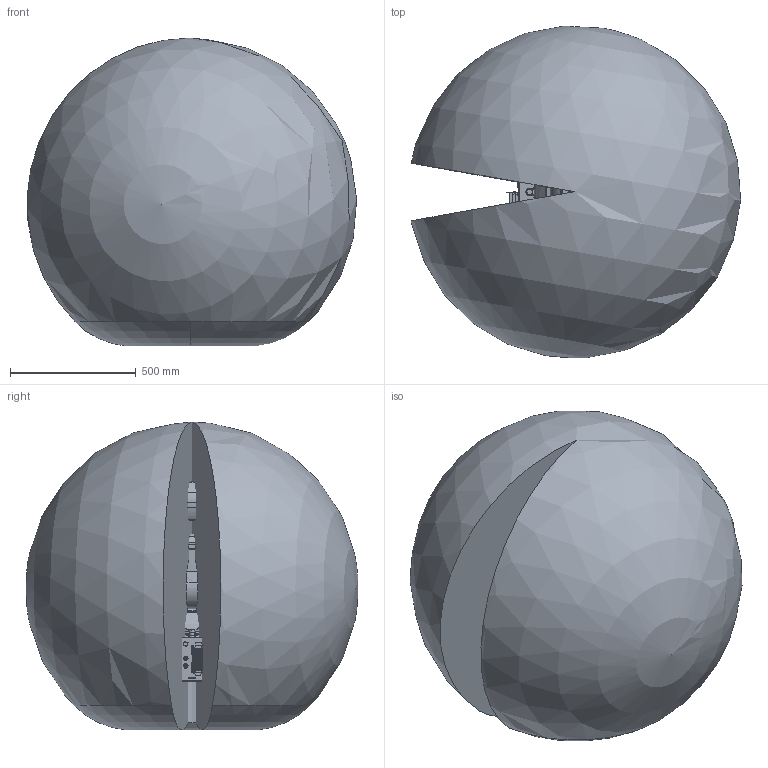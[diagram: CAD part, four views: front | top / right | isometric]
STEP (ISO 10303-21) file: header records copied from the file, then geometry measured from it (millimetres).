
FILE_DESCRIPTION (( 'STEP AP214' ), '1' );
FILE_NAME ('ER10-700 机器人数模V1.0.STEP', '2023-07-31T06:14:04', ( '' ), ( '' ), 'SwSTEP 2.0', 'SolidWorks 2021', '' );
FILE_SCHEMA (( 'AUTOMOTIVE_DESIGN' ));
Length unit declared in the file: millimetre
Products named in the file (9): 复件 运动范围^ER10-700 机器人数模V1.0; 小臂部分^ER10-700 机器人数模V1.0; ER10-900底座部分^ER10-700 机器人数模V1.0; 复件 复件 ER10-700V1-02000 大臂部分^ER10-700 机器人数模V1.0; 复件 复件 ER10-900V1-04000 手腕连接体部分^ER10-700 机器人数模V1.0; ER10-700 机器人数模V1.0; 复件 ER10-700V1-04000 手腕部分^ER10-700 机器人数模V1.0; 复件 复件 ER10-900转座部分^ER10-700 机器人数模V1.0; 末端^ER10-700 机器人数模V1.0
Assembly tree (8 placements, depth 2):
  ER10-700 机器人数模V1.0
    ER10-900底座部分^ER10-700 机器人数模V1.0
    复件 复件 ER10-900转座部分^ER10-700 机器人数模V1.0
    复件 复件 ER10-700V1-02000 大臂部分^ER10-700 机器人数模V1.0
    小臂部分^ER10-700 机器人数模V1.0
    复件 ER10-700V1-04000 手腕部分^ER10-700 机器人数模V1.0
    复件 复件 ER10-900V1-04000 手腕连接体部分^ER10-700 机器人数模V1.0
    末端^ER10-700 机器人数模V1.0
    复件 运动范围^ER10-700 机器人数模V1.0
Bounding box: 1311.49 x 1320.75 x 1226.16 mm (x, y, z)
Volume: 1122617802.4 mm3; surface area: 8146559.5 mm2
Topology: 8 solids, 21 shells, 3891 faces, 9070 edges, 5393 vertices
Faces by surface type: cylinder 1024, plane 1004, bspline 768, torus 581, cone 484, sphere 30
Entity records: 195934 total; most frequent: CARTESIAN_POINT 78370, ORIENTED_EDGE 17794, DIRECTION 17132, EDGE_CURVE 8897, AXIS2_PLACEMENT_3D 7325, VERTEX_POINT 5377, EDGE_LOOP 4278, CIRCLE 4190
